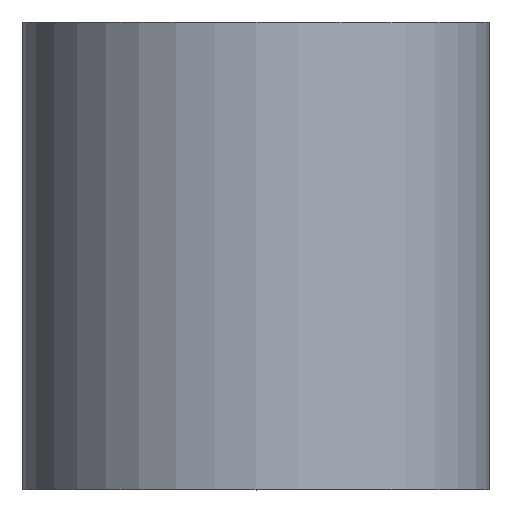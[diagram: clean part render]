
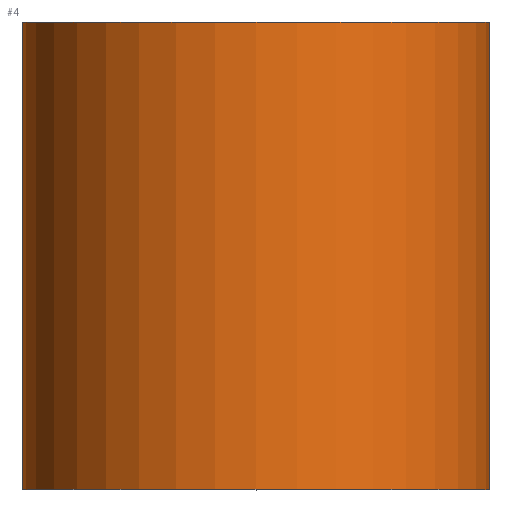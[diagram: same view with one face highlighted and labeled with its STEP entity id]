
A CAD part, top view. The second image highlights one B-rep face of the part: STEP entity #4.
In plain terms, the highlighted cylindrical face has radius 5 mm (diameter 10 mm), a partial arc.
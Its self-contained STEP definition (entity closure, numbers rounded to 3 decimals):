
#2 = AXIS2_PLACEMENT_3D ( 'NONE', #281, #135, #187 ) ;
#4 = ADVANCED_FACE ( 'NONE', ( #130 ), #19, .T. ) ;
#15 = DIRECTION ( 'NONE',  ( -1., 0., 0. ) ) ;
#19 = CYLINDRICAL_SURFACE ( 'NONE', #2, 5. ) ;
#25 = CARTESIAN_POINT ( 'NONE',  ( -5., 0., 0. ) ) ;
#27 = CARTESIAN_POINT ( 'NONE',  ( -5., 0., 0. ) ) ;
#35 = VERTEX_POINT ( 'NONE', #210 ) ;
#37 = AXIS2_PLACEMENT_3D ( 'NONE', #296, #76, #98 ) ;
#56 = DIRECTION ( 'NONE',  ( 0., 1., 0. ) ) ;
#65 = EDGE_CURVE ( 'NONE', #219, #271, #249, .T. ) ;
#73 = VECTOR ( 'NONE', #91, 1000. ) ;
#76 = DIRECTION ( 'NONE',  ( 0., 1., 0. ) ) ;
#79 = EDGE_CURVE ( 'NONE', #253, #219, #277, .T. ) ;
#81 = VECTOR ( 'NONE', #56, 1000. ) ;
#91 = DIRECTION ( 'NONE',  ( 0., 1., 0. ) ) ;
#98 = DIRECTION ( 'NONE',  ( -1., 0., 0. ) ) ;
#104 = EDGE_CURVE ( 'NONE', #253, #35, #195, .T. ) ;
#107 = EDGE_CURVE ( 'NONE', #35, #271, #125, .T. ) ;
#108 = ORIENTED_EDGE ( 'NONE', *, *, #65, .F. ) ;
#123 = ORIENTED_EDGE ( 'NONE', *, *, #104, .T. ) ;
#124 = ORIENTED_EDGE ( 'NONE', *, *, #107, .T. ) ;
#125 = LINE ( 'NONE', #166, #73 ) ;
#130 = FACE_OUTER_BOUND ( 'NONE', #200, .T. ) ;
#135 = DIRECTION ( 'NONE',  ( 0., 1., 0. ) ) ;
#166 = CARTESIAN_POINT ( 'NONE',  ( 5., 0., 0. ) ) ;
#183 = CARTESIAN_POINT ( 'NONE',  ( 5., 10., 0. ) ) ;
#185 = CARTESIAN_POINT ( 'NONE',  ( -5., 10., 0. ) ) ;
#187 = DIRECTION ( 'NONE',  ( -1., 0., 0. ) ) ;
#189 = CARTESIAN_POINT ( 'NONE',  ( 0., 10., 0. ) ) ;
#195 = CIRCLE ( 'NONE', #37, 5. ) ;
#197 = ORIENTED_EDGE ( 'NONE', *, *, #79, .F. ) ;
#200 = EDGE_LOOP ( 'NONE', ( #123, #124, #108, #197 ) ) ;
#210 = CARTESIAN_POINT ( 'NONE',  ( 5., 0., 0. ) ) ;
#219 = VERTEX_POINT ( 'NONE', #185 ) ;
#249 = CIRCLE ( 'NONE', #254, 5. ) ;
#253 = VERTEX_POINT ( 'NONE', #27 ) ;
#254 = AXIS2_PLACEMENT_3D ( 'NONE', #189, #291, #15 ) ;
#271 = VERTEX_POINT ( 'NONE', #183 ) ;
#277 = LINE ( 'NONE', #25, #81 ) ;
#281 = CARTESIAN_POINT ( 'NONE',  ( 0., 0., 0. ) ) ;
#291 = DIRECTION ( 'NONE',  ( 0., 1., 0. ) ) ;
#296 = CARTESIAN_POINT ( 'NONE',  ( 0., 0., 0. ) ) ;
